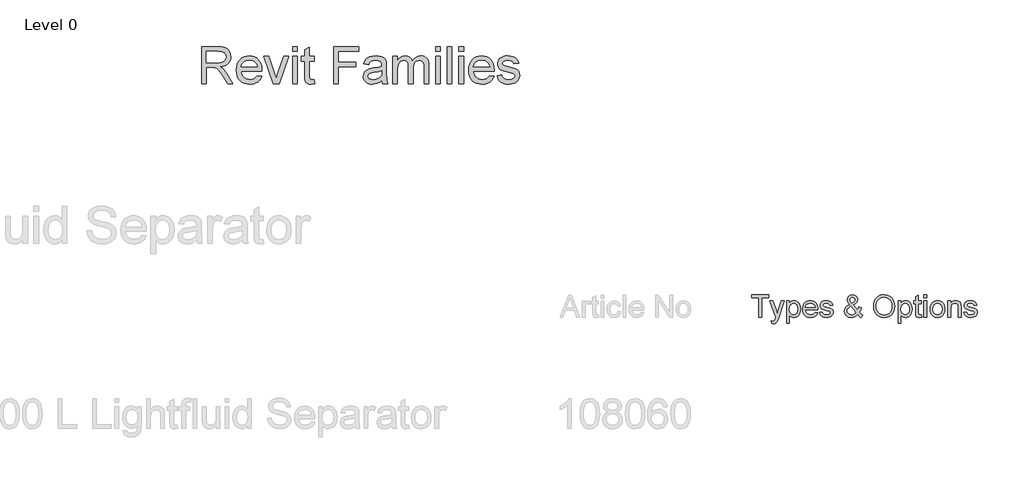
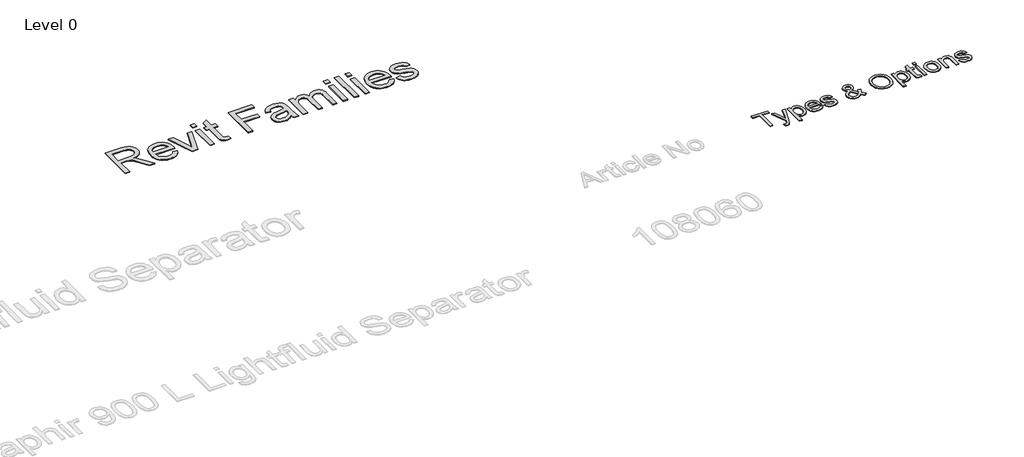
# One storey, part 9 of 9: 2 proxies.
"""IFC4 building model written with IfcOpenShell, lengths in millimetres."""

from ifc_helpers import new_model, si_unit, origin, origin_with_axes, place, context, project, spatial, polyline, outline, extrude, element, save

model = new_model("IFC4")

# Units and contexts
model_context = context("Model", 3, world=origin())
ifc_project = project(units=[si_unit("LENGTHUNIT", "METRE", prefix="MILLI")], contexts=[model_context])

# Site, building, storey
site = spatial("IfcSite", under=ifc_project)
building = spatial("IfcBuilding", under=site)
storey = spatial("IfcBuildingStorey", under=building, Name="Level 0", Elevation=0.0)

# Proxies
placement = place(None, origin())
element("IfcBuildingElementProxy", 1, Name="300mm Arial", ObjectType="300mm Arial", at=placement, inside=storey, context=model_context, shape_type="SweptSolid", body=[
    extrude(outline(polyline([(-1087.829451, 11653.8274553), (-1087.829451, 11917.5252695), (-1186.7161313, 11917.5252695), (-1186.7161313, 11955.1963858), (-951.2716544, 11955.1963858), (-951.2716544, 11917.5252695), (-1050.1583347, 11917.5252695), (-1050.1583347, 11653.8274553), (-1087.829451, 11653.8274553)])), origin_with_axes(), (0.0, 0.0, 1.0), 10.0),
    extrude(outline(polyline([(-913.6005381, 11569.0674436), (-918.3094276, 11605.3406084), (-899.1795639, 11602.0296704), (-881.3004989, 11606.186737), (-870.3376155, 11617.7750198), (-860.0369196, 11645.5133222), (-857.0938636, 11654.6367957), (-937.1449858, 11875.1452636), (-897.4137303, 11875.1452636), (-854.9601481, 11752.2726772), (-840.1712919, 11703.1236427), (-825.3824356, 11746.5337181), (-781.751631, 11875.1452636), (-742.3146811, 11875.1452636), (-819.3491709, 11648.5299546), (-839.3619515, 11599.38092), (-849.607465, 11583.690753), (-861.214142, 11572.81984), (-874.6970171, 11566.4738756), (-890.5711252, 11564.3585541), (-913.6005381, 11569.0674436)])), origin_with_axes(), (0.0, 0.0, 1.0), 10.0),
    extrude(outline(polyline([(-711.1182879, 11569.0674436), (-711.1182879, 11875.1452636), (-673.4471716, 11875.1452636), (-673.4471716, 11838.2099113), (-661.159913, 11856.4292671), (-647.4011264, 11869.4430927), (-631.3614714, 11877.2513881), (-612.2316076, 11879.8541532), (-586.7557795, 11876.2121214), (-564.4805247, 11865.2860262), (-546.3439423, 11847.738055), (-533.2841315, 11824.2303955), (-525.3930627, 11796.473699), (-522.7627064, 11766.1786167), (-525.7333535, 11733.9613509), (-534.6452949, 11705.1469937), (-549.2134219, 11681.1978758), (-569.152626, 11663.5763282), (-592.3751769, 11652.7330064), (-616.7933444, 11649.1185658), (-634.1113893, 11651.5373899), (-649.5716301, 11658.7938623), (-662.8061849, 11669.7475487), (-673.4471716, 11683.2580149), (-673.4471716, 11569.0674436), (-711.1182879, 11569.0674436)]), holes=[polyline([(-673.4471716, 11762.7205259), (-669.3728785, 11728.9489587), (-657.1499992, 11705.3309347), (-639.1145844, 11691.4249952), (-617.6026848, 11686.7896821), (-595.7412972, 11691.5905421), (-577.2460299, 11705.9931223), (-564.6368745, 11730.475669), (-560.4338227, 11765.5164291), (-564.535707, 11799.1040552), (-576.8413597, 11823.0531731), (-594.8491834, 11837.4005709), (-616.0575804, 11842.1830369), (-637.3487509, 11837.0970683), (-656.0463533, 11821.8391625), (-669.096967, 11796.8875662), (-673.4471716, 11762.7205259)])]), origin_with_axes(), (0.0, 0.0, 1.0), 10.0),
    extrude(outline(polyline([(-325.4308042, 11719.7519089), (-288.4954519, 11715.0430193), (-301.8035831, 11687.2127464), (-323.0395712, 11666.4090196), (-351.7251698, 11653.4411792), (-387.3821322, 11649.1185658), (-410.7564345, 11650.9832677), (-431.5831539, 11656.5773732), (-449.8622905, 11665.9008826), (-465.5938444, 11678.9537956), (-478.2443865, 11695.3728289), (-487.280488, 11714.794699), (-492.7021489, 11737.2194059), (-494.5093692, 11762.6469495), (-492.6837548, 11788.9367166), (-487.2069116, 11812.1086838), (-478.0788396, 11832.162851), (-465.2995388, 11849.0992184), (-449.6093717, 11862.5545023), (-431.7487008, 11872.1654195), (-411.7175262, 11877.9319697), (-389.5158478, 11879.8541532), (-368.02924, 11877.9365683), (-348.5981728, 11872.1838136), (-331.2226464, 11862.5958891), (-315.9026605, 11849.1727948), (-303.396972, 11832.2732156), (-294.4643373, 11812.2558366), (-289.1047564, 11789.1206576), (-287.3182295, 11762.8676787), (-287.5389587, 11752.7141356), (-456.8382529, 11752.7141356), (-450.3175445, 11724.5159807), (-435.1700034, 11703.7858303), (-413.3086158, 11691.0387191), (-386.6463682, 11686.7896821), (-366.5967995, 11688.7578508), (-349.7110159, 11694.6623568), (-335.9890175, 11704.8710822), (-325.4308042, 11719.7519089)]), holes=[polyline([(-456.8382529, 11790.3852519), (-324.9893458, 11790.3852519), (-330.0845114, 11810.2876679), (-340.0725076, 11824.5247011), (-362.0350627, 11837.7684529), (-389.6630006, 11842.1830369), (-415.0560553, 11838.6605668), (-436.0529201, 11828.0931565), (-450.6486383, 11811.6212401), (-456.8382529, 11790.3852519)])]), origin_with_axes(), (0.0, 0.0, 1.0), 10.0),
    extrude(outline(polyline([(-263.7737818, 11719.7519089), (-226.1026655, 11724.4607984), (-220.1613713, 11708.347567), (-208.6650589, 11696.5017668), (-191.5401521, 11689.2177033), (-168.7130743, 11686.7896821), (-146.1619079, 11689.0153682), (-130.306194, 11695.6924264), (-120.9252031, 11705.3677229), (-117.7982061, 11716.5881237), (-120.9435972, 11726.1898438), (-130.3797704, 11733.5106955), (-169.1545326, 11744.2528497), (-225.8819363, 11762.6837377), (-240.2385312, 11771.9451669), (-250.6403946, 11784.2048344), (-256.9587678, 11798.6809909), (-259.0648923, 11814.5918872), (-257.3726351, 11829.1876054), (-252.2958636, 11842.6612835), (-244.2944302, 11854.4794926), (-233.8281874, 11864.1088038), (-209.8790695, 11875.2556282), (-177.4686657, 11879.8541532), (-152.9493308, 11878.0055461), (-131.6305691, 11872.4597251), (-114.4872682, 11863.7593159), (-102.4943151, 11852.4469445), (-94.548064, 11837.6856795), (-89.5448689, 11818.6385892), (-127.2159852, 11813.9296996), (-131.97086, 11825.7846969), (-141.379442, 11834.7150324), (-155.5337018, 11840.3160357), (-174.5256098, 11842.1830369), (-196.1570711, 11840.3988092), (-210.5780453, 11835.0461262), (-218.6898433, 11827.3206043), (-221.393776, 11818.41786), (-216.9056156, 11807.4549765), (-202.8525234, 11799.1408434), (-170.4053314, 11791.1210159), (-115.1126676, 11773.3891038), (-100.5077523, 11764.9094238), (-89.4345043, 11753.3027468), (-82.4539434, 11738.5322847), (-80.1270898, 11720.5612493), (-82.8586136, 11701.9832085), (-91.0531851, 11684.5088137), (-104.3981044, 11669.5084254), (-122.5806721, 11658.3524039), (-144.5432272, 11651.4270253), (-169.228109, 11649.1185658), (-207.211925, 11653.5699379), (-234.9318334, 11666.9240544), (-253.4362977, 11689.0337623), (-263.7737818, 11719.7519089)])), origin_with_axes(), (0.0, 0.0, 1.0), 10.0),
    extrude(outline(polyline([(252.8061158, 11691.0571132), (233.657858, 11672.7089987), (212.8541311, 11659.6032027), (190.3581471, 11651.739725), (166.1331178, 11649.1185658), (144.1521685, 11651.0591433), (124.5624523, 11656.8808759), (107.363969, 11666.5837635), (92.5567187, 11680.1678062), (76.0572112, 11706.9680095), (70.5573754, 11736.748057), (74.9811564, 11763.1435902), (88.2524994, 11786.8535848), (110.316222, 11807.8596467), (141.1171421, 11826.1433819), (114.8135794, 11864.2559566), (108.2284917, 11892.5092938), (113.4156278, 11917.9483338), (128.9770362, 11939.8189184), (152.3927252, 11954.8836861), (181.1427032, 11959.9052753), (208.4947295, 11955.1044153), (230.3653141, 11940.7018352), (244.7127119, 11919.5670146), (249.4951779, 11894.569433), (245.9543137, 11873.5817652), (235.331721, 11854.1759899), (217.6274, 11836.3521072), (192.8413506, 11820.1101172), (247.3614623, 11752.1991008), (256.6504827, 11771.6048761), (263.6218465, 11793.9169191), (301.2929628, 11785.7499388), (289.7046799, 11750.8563316), (274.6583063, 11723.7250344), (296.0690385, 11698.7458469), (320.1285209, 11678.107667), (291.8751837, 11649.1185658), (272.6533495, 11666.7033252), (252.8061158, 11691.0571132)]), holes=[polyline([(227.569411, 11718.2068045), (160.3205822, 11802.1574758), (134.6332219, 11785.7683329), (118.9338578, 11770.5932006), (110.9048332, 11756.09865), (108.2284917, 11741.7512522), (111.8889176, 11723.9825518), (122.8701951, 11705.5516639), (140.5653191, 11691.4801775), (164.3672842, 11686.7896821), (181.4094176, 11688.97858), (198.9849799, 11695.5452736), (215.0522261, 11705.5884521), (227.569411, 11718.2068045)]), polyline([(173.7850633, 11843.875294), (193.4851441, 11856.3740848), (204.7607272, 11867.2358007), (210.058228, 11877.803211), (211.8240616, 11889.419085), (209.4972079, 11902.5800634), (202.5166471, 11913.0738973), (192.0412073, 11919.9440936), (179.2297168, 11922.234159), (166.1423148, 11919.9624877), (155.4277517, 11913.1474737), (148.2816439, 11903.05831), (145.899608, 11890.9641894), (149.1369696, 11877.1686146), (158.9226307, 11861.8279354), (173.7850633, 11843.875294)])]), origin_with_axes(), (0.0, 0.0, 1.0), 10.0),
    extrude(outline(polyline([(466.1040966, 11800.538795), (468.6148912, 11835.8876562), (476.1472751, 11867.1806184), (488.7012482, 11894.4176817), (506.2768105, 11917.5988459), (527.8208998, 11936.1079088), (552.280454, 11949.328668), (579.655473, 11957.2611235), (609.9459567, 11959.9052753), (649.4748771, 11954.9388684), (684.9203074, 11940.0396476), (714.350867, 11916.2560766), (735.8351755, 11884.6366191), (748.9685627, 11846.7079854), (753.3463585, 11803.9968858), (748.7386365, 11760.715569), (734.9154705, 11722.2535064), (712.6402157, 11690.5788667), (682.6762272, 11667.6598184), (647.5342996, 11653.7538789), (609.7252275, 11649.1185658), (569.5893019, 11654.2413226), (533.9415365, 11669.6095929), (504.5845533, 11693.8346223), (483.320974, 11725.5276562), (470.408316, 11761.993959), (466.1040966, 11800.538795)]), holes=[polyline([(503.7752129, 11800.170913), (505.6583089, 11775.1963241), (511.3075968, 11753.0268353), (520.7230766, 11733.6624468), (533.9047483, 11717.1031585), (549.9283085, 11703.8410126), (567.8694535, 11694.3680512), (587.7281835, 11688.6842744), (609.5044983, 11686.7896821), (631.6532937, 11688.7026685), (651.7465484, 11694.4416276), (669.7842625, 11704.0065595), (685.7664359, 11717.3974641), (698.8515387, 11734.3062403), (708.1980406, 11754.4247869), (713.8059418, 11777.7531039), (715.6752422, 11804.2911914), (712.4746688, 11837.6396942), (702.8729487, 11866.4632485), (687.1184023, 11890.0352874), (665.4593498, 11907.6292438), (639.3305311, 11918.5829302), (610.1666859, 11922.234159), (589.1468284, 11920.4752232), (569.6444842, 11915.1984159), (551.6596531, 11906.4037369), (535.1923353, 11894.0911864), (521.4473443, 11877.6675546), (511.6294935, 11856.5396317), (505.7387831, 11830.7074179), (503.7752129, 11800.170913)])]), origin_with_axes(), (0.0, 0.0, 1.0), 10.0),
    extrude(outline(polyline([(800.4352538, 11569.0674436), (800.4352538, 11875.1452636), (838.1063701, 11875.1452636), (838.1063701, 11838.2099113), (850.3936288, 11856.4292671), (864.1524154, 11869.4430927), (880.1920704, 11877.2513881), (899.3219341, 11879.8541532), (924.7977623, 11876.2121214), (947.0730171, 11865.2860262), (965.2095995, 11847.738055), (978.2694103, 11824.2303955), (986.1604791, 11796.473699), (988.7908354, 11766.1786167), (985.8201883, 11733.9613509), (976.9082469, 11705.1469937), (962.3401199, 11681.1978758), (942.4009158, 11663.5763282), (919.1783648, 11652.7330064), (894.7601974, 11649.1185658), (877.4421525, 11651.5373899), (861.9819116, 11658.7938623), (848.7473569, 11669.7475487), (838.1063701, 11683.2580149), (838.1063701, 11569.0674436), (800.4352538, 11569.0674436)]), holes=[polyline([(838.1063701, 11762.7205259), (842.1806632, 11728.9489587), (854.4035425, 11705.3309347), (872.4389573, 11691.4249952), (893.950857, 11686.7896821), (915.8122446, 11691.5905421), (934.3075119, 11705.9931223), (946.9166673, 11730.475669), (951.1197191, 11765.5164291), (947.0178348, 11799.1040552), (934.7121821, 11823.0531731), (916.7043584, 11837.4005709), (895.4959614, 11842.1830369), (874.2047909, 11837.0970683), (855.5071885, 11821.8391625), (842.4565747, 11796.8875662), (838.1063701, 11762.7205259)])]), origin_with_axes(), (0.0, 0.0, 1.0), 10.0),
    extrude(outline(polyline([(1111.2219634, 11685.2445777), (1115.9308529, 11652.7238093), (1087.7510921, 11649.1185658), (1069.669692, 11650.6820643), (1056.1868169, 11655.3725597), (1046.6586732, 11662.6014409), (1040.4414675, 11671.7800967), (1037.0201649, 11687.5438402), (1035.8797308, 11714.5279845), (1035.8797308, 11837.4741473), (1007.6263935, 11837.4741473), (1007.6263935, 11875.1452636), (1035.8797308, 11875.1452636), (1035.8797308, 11928.9296113), (1073.5508471, 11951.0761074), (1073.5508471, 11875.1452636), (1111.2219634, 11875.1452636), (1111.2219634, 11837.4741473), (1073.5508471, 11837.4741473), (1073.5508471, 11715.6316305), (1075.5374098, 11696.2074612), (1081.9753447, 11689.3280679), (1094.8144264, 11686.7896821), (1111.2219634, 11685.2445777)])), origin_with_axes(), (0.0, 0.0, 1.0), 10.0),
    extrude(outline(polyline([(1148.8930797, 11917.5252695), (1148.8930797, 11955.1963858), (1186.564196, 11955.1963858), (1186.564196, 11917.5252695), (1148.8930797, 11917.5252695)])), origin_with_axes(), (0.0, 0.0, 1.0), 10.0),
    extrude(outline(polyline([(1148.8930797, 11653.8274553), (1148.8930797, 11875.1452636), (1186.564196, 11875.1452636), (1186.564196, 11653.8274553), (1148.8930797, 11653.8274553)])), origin_with_axes(), (0.0, 0.0, 1.0), 10.0),
    extrude(outline(polyline([(1233.6530914, 11764.4863595), (1235.6902379, 11793.1489654), (1241.8016776, 11817.8476429), (1251.9874103, 11838.5823918), (1266.2474361, 11855.3532123), (1280.604031, 11866.0723739), (1296.4505479, 11873.728918), (1313.786987, 11878.3228444), (1332.6133481, 11879.8541532), (1353.3963815, 11877.9894513), (1372.1882537, 11872.3953457), (1388.9889646, 11863.0718364), (1403.7985141, 11850.0189234), (1415.8857369, 11833.678065), (1424.5194675, 11814.4907197), (1429.6997059, 11792.4568874), (1431.426452, 11767.5765682), (1428.3730314, 11729.5191758), (1419.2127697, 11700.5484687), (1404.2123814, 11678.8526281), (1383.6385808, 11662.619835), (1359.2020193, 11652.4938831), (1332.6133481, 11649.1185658), (1311.526812, 11650.9763699), (1292.5601958, 11656.5497821), (1275.7134997, 11665.8388025), (1260.9867236, 11678.843431), (1249.0282595, 11695.3429385), (1240.4864994, 11715.1165957), (1235.3614434, 11738.1644027), (1233.6530914, 11764.4863595)]), holes=[polyline([(1271.3242077, 11764.5599359), (1275.6836093, 11730.466472), (1288.7618142, 11706.1770632), (1308.443501, 11691.6365274), (1332.6133481, 11686.7896821), (1356.6728305, 11691.6641185), (1376.3177291, 11706.2874278), (1389.395934, 11730.8987333), (1393.7553357, 11765.7371583), (1389.3683429, 11798.8373408), (1376.2073645, 11822.7956557), (1356.5348748, 11837.3361916), (1332.6133481, 11842.1830369), (1308.443501, 11837.3545857), (1288.7618142, 11822.8692321), (1275.6836093, 11798.6350057), (1271.3242077, 11764.5599359)])]), origin_with_axes(), (0.0, 0.0, 1.0), 10.0),
    extrude(outline(polyline([(1473.8064578, 11653.8274553), (1473.8064578, 11875.1452636), (1511.4775741, 11875.1452636), (1511.4775741, 11844.243176), (1524.5649761, 11859.8229785), (1540.2827343, 11870.9514089), (1558.6308488, 11877.6284671), (1579.6093196, 11879.8541532), (1598.1781633, 11878.0607284), (1615.1835086, 11872.6804543), (1629.3653595, 11864.3847153), (1639.4637202, 11853.8448961), (1650.7576975, 11826.1433819), (1652.7442603, 11789.7230644), (1652.7442603, 11653.8274553), (1615.073144, 11653.8274553), (1615.073144, 11784.6462928), (1610.7321364, 11817.9764016), (1604.7264628, 11827.9000184), (1595.3914572, 11835.5979492), (1583.4260953, 11840.5367649), (1569.529353, 11842.1830369), (1547.4656303, 11838.4858228), (1528.6576633, 11827.3941807), (1521.1413743, 11818.3396851), (1515.7725964, 11805.9650544), (1511.4775741, 11771.2553882), (1511.4775741, 11653.8274553), (1473.8064578, 11653.8274553)])), origin_with_axes(), (0.0, 0.0, 1.0), 10.0),
    extrude(outline(polyline([(1690.4153766, 11719.7519089), (1728.0864929, 11724.4607984), (1734.0277871, 11708.347567), (1745.5240994, 11696.5017668), (1762.6490063, 11689.2177033), (1785.4760841, 11686.7896821), (1808.0272504, 11689.0153682), (1823.8829644, 11695.6924264), (1833.2639553, 11705.3677229), (1836.3909523, 11716.5881237), (1833.2455612, 11726.1898438), (1823.809388, 11733.5106955), (1785.0346257, 11744.2528497), (1728.3072221, 11762.6837377), (1713.9506272, 11771.9451669), (1703.5487638, 11784.2048344), (1697.2303905, 11798.6809909), (1695.1242661, 11814.5918872), (1696.8165233, 11829.1876054), (1701.8932948, 11842.6612835), (1709.8947282, 11854.4794926), (1720.360971, 11864.1088038), (1744.3100889, 11875.2556282), (1776.7204926, 11879.8541532), (1801.2398276, 11878.0055461), (1822.5585892, 11872.4597251), (1839.7018902, 11863.7593159), (1851.6948433, 11852.4469445), (1859.6410944, 11837.6856795), (1864.6442895, 11818.6385892), (1826.9731732, 11813.9296996), (1822.2182984, 11825.7846969), (1812.8097164, 11834.7150324), (1798.6554566, 11840.3160357), (1779.6635486, 11842.1830369), (1758.0320873, 11840.3988092), (1743.6111131, 11835.0461262), (1735.4993151, 11827.3206043), (1732.7953824, 11818.41786), (1737.2835428, 11807.4549765), (1751.336635, 11799.1408434), (1783.7838269, 11791.1210159), (1839.0764908, 11773.3891038), (1853.681406, 11764.9094238), (1864.7546541, 11753.3027468), (1871.7352149, 11738.5322847), (1874.0620686, 11720.5612493), (1871.3305447, 11701.9832085), (1863.1359733, 11684.5088137), (1849.7910539, 11669.5084254), (1831.6084863, 11658.3524039), (1809.6459312, 11651.4270253), (1784.9610493, 11649.1185658), (1746.9772333, 11653.5699379), (1719.257325, 11666.9240544), (1700.7528606, 11689.0337623), (1690.4153766, 11719.7519089)])), origin_with_axes(), (0.0, 0.0, 1.0), 10.0),
])
element("IfcBuildingElementProxy", 2, Name="600mm Arial", ObjectType="600mm Arial", at=placement, inside=storey, context=model_context, shape_type="SweptSolid", body=[
    extrude(outline(polyline([(-8637.1018415, 14819.3449091), (-8637.1018415, 15321.6264599), (-8420.664601, 15321.6264599), (-8362.4932606, 15318.2388799), (-8320.1715027, 15308.0761397), (-8289.2387583, 15289.314158), (-8265.2344581, 15260.128853), (-8249.8293995, 15223.9384618), (-8244.69438, 15184.161221), (-8246.8211978, 15158.3634961), (-8253.2016511, 15134.6810927), (-8263.8357401, 15113.1140107), (-8278.7234646, 15093.6622502), (-8298.0564298, 15076.9466121), (-8322.0262411, 15063.5878971), (-8350.6328983, 15053.5861054), (-8383.8764015, 15046.9412368), (-8363.1830393, 15033.4215735), (-8348.191848, 15020.0858512), (-8297.3015053, 14955.4612474), (-8213.5470378, 14819.3449091), (-8286.5103001, 14819.3449091), (-8351.8706679, 14923.4555138), (-8399.0821907, 14992.3720742), (-8416.6332275, 15012.4676282), (-8432.2528839, 15024.9296308), (-8462.1126392, 15036.8857956), (-8498.5329567, 15039.0930876), (-8574.3166477, 15039.0930876), (-8574.3166477, 14819.3449091), (-8637.1018415, 14819.3449091)]), holes=[polyline([(-8574.3166477, 15101.8782814), (-8433.7857255, 15101.8782814), (-8393.426005, 15104.1009018), (-8362.1100501, 15110.768763), (-8338.5349456, 15122.326389), (-8321.397776, 15139.2183039), (-8310.9591244, 15159.6510831), (-8307.4795739, 15181.8313017), (-8309.1388749, 15197.887818), (-8314.1167782, 15212.4574778), (-8322.4132836, 15225.5402813), (-8334.0283912, 15237.1362283), (-8349.2303482, 15246.6321823), (-8368.287402, 15253.4150066), (-8417.9667997, 15258.841266), (-8574.3166477, 15258.841266), (-8574.3166477, 15101.8782814)])]), origin_with_axes(), (0.0, 0.0, 1.0), 10.0),
    extrude(outline(polyline([(-7884.4152794, 14929.2189984), (-7822.8563589, 14921.3708491), (-7832.2948313, 14896.7150913), (-7845.0365775, 14874.9870609), (-7861.0815974, 14856.1867581), (-7880.4298911, 14840.3141829), (-7902.8821891, 14827.7065603), (-7928.2392221, 14818.7011157), (-7956.5009899, 14813.2978488), (-7987.6674927, 14811.4967599), (-8026.6246632, 14814.6045964), (-8061.3358622, 14823.9281057), (-8091.80109, 14839.4672879), (-8118.0203463, 14861.2221429), (-8139.1045832, 14888.5871984), (-8154.1647524, 14920.9569819), (-8163.2008539, 14958.3314933), (-8166.2128877, 15000.7107328), (-8163.170197, 15044.5270112), (-8154.042125, 15083.1469565), (-8138.8286717, 15116.5705686), (-8117.529837, 15144.7978475), (-8091.3795585, 15167.2233208), (-8061.6117737, 15183.241516), (-8028.2264827, 15192.8524332), (-7991.2236853, 15196.0560722), (-7955.4126724, 15192.8600974), (-7923.0275605, 15183.2721729), (-7894.0683497, 15167.2922987), (-7868.5350399, 15144.9204749), (-7847.6922257, 15116.7545096), (-7832.8045012, 15083.3922112), (-7823.8718665, 15044.8335796), (-7820.8943216, 15001.0786148), (-7821.2622036, 14984.156043), (-8103.4276939, 14984.156043), (-8099.7910271, 14959.1017463), (-8092.5598466, 14937.1591181), (-8081.7341525, 14918.3281585), (-8067.3139447, 14902.6088674), (-8050.0963009, 14890.2158427), (-8030.8782987, 14881.3636822), (-8009.6599382, 14876.0523859), (-7986.4412194, 14874.2819538), (-7953.0252715, 14877.5622349), (-7924.8822989, 14887.4030783), (-7902.0123015, 14904.4176205), (-7884.4152794, 14929.2189984)]), holes=[polyline([(-8103.4276939, 15046.9412368), (-7883.6795154, 15046.9412368), (-7892.1714581, 15080.1119301), (-7908.8181184, 15103.8403187), (-7925.9399596, 15116.7161886), (-7945.4223769, 15125.9132385), (-7967.2653704, 15131.4314684), (-7991.46894, 15133.2708784), (-8033.7906979, 15127.4000949), (-8052.2039581, 15120.0616155), (-8068.7854727, 15109.7877443), (-8082.6998427, 15097.0536624), (-8093.1116696, 15082.3345504), (-8100.0209533, 15065.6304086), (-8103.4276939, 15046.9412368)])]), origin_with_axes(), (0.0, 0.0, 1.0), 10.0),
    extrude(outline(polyline([(-7667.6101569, 14819.3449091), (-7797.3498739, 15188.207923), (-7730.8858601, 15188.207923), (-7652.2817404, 14967.2334712), (-7628.6146654, 14892.9213082), (-7605.4380997, 14963.0641419), (-7526.3434708, 15188.207923), (-7459.879457, 15188.207923), (-7588.0250186, 14819.3449091), (-7667.6101569, 14819.3449091)])), origin_with_axes(), (0.0, 0.0, 1.0), 10.0),
    extrude(outline(polyline([(-7404.9424124, 14819.3449091), (-7404.9424124, 15188.207923), (-7342.1572185, 15188.207923), (-7342.1572185, 14819.3449091), (-7404.9424124, 14819.3449091)])), origin_with_axes(), (0.0, 0.0, 1.0), 10.0),
    extrude(outline(polyline([(-7404.9424124, 15258.841266), (-7404.9424124, 15321.6264599), (-7342.1572185, 15321.6264599), (-7342.1572185, 15258.841266), (-7404.9424124, 15258.841266)])), origin_with_axes(), (0.0, 0.0, 1.0), 10.0),
    extrude(outline(polyline([(-7114.5608908, 14871.7067798), (-7106.7127416, 14817.5054992), (-7153.6790096, 14811.4967599), (-7183.8146764, 14814.1025907), (-7206.286135, 14821.9200831), (-7222.1663744, 14833.9682185), (-7232.5283839, 14849.2659781), (-7238.2305549, 14875.5388839), (-7240.1312785, 14920.5124578), (-7240.1312785, 15125.4227291), (-7287.2201739, 15125.4227291), (-7287.2201739, 15188.207923), (-7240.1312785, 15188.207923), (-7240.1312785, 15277.8485025), (-7177.3460847, 15314.7593293), (-7177.3460847, 15188.207923), (-7114.5608908, 15188.207923), (-7114.5608908, 15125.4227291), (-7177.3460847, 15125.4227291), (-7177.3460847, 14922.3518678), (-7174.0351467, 14889.9782522), (-7163.3052552, 14878.5125967), (-7141.9067858, 14874.2819538), (-7114.5608908, 14871.7067798)])), origin_with_axes(), (0.0, 0.0, 1.0), 10.0),
    extrude(outline(polyline([(-6847.723817, 14819.3449091), (-6847.723817, 15321.6264599), (-6510.2534001, 15321.6264599), (-6510.2534001, 15258.841266), (-6784.9386231, 15258.841266), (-6784.9386231, 15109.7264307), (-6549.4941462, 15109.7264307), (-6549.4941462, 15046.9412368), (-6784.9386231, 15046.9412368), (-6784.9386231, 14819.3449091), (-6847.723817, 14819.3449091)])), origin_with_axes(), (0.0, 0.0, 1.0), 10.0),
    extrude(outline(polyline([(-6196.3274309, 14866.4338045), (-6226.3251419, 14840.7127217), (-6257.2119011, 14823.8821204), (-6289.6928156, 14814.5931), (-6324.4729925, 14811.4967599), (-6352.428192, 14813.3591625), (-6376.9421621, 14818.9463703), (-6398.0149026, 14828.2583833), (-6415.6464137, 14841.2952015), (-6429.5684479, 14857.2290904), (-6439.5127581, 14875.2323156), (-6445.4793442, 14895.3048769), (-6447.4682062, 14917.4467745), (-6444.4638366, 14943.4744257), (-6435.4507277, 14967.1108439), (-6421.547854, 14987.3443536), (-6403.8741898, 15003.1632794), (-6383.1041855, 15015.1194442), (-6359.9122914, 15023.7646711), (-6305.5883834, 15033.2069757), (-6241.3929753, 15043.1397895), (-6196.6953129, 15054.7893861), (-6196.3274309, 15068.7689019), (-6200.6500443, 15096.7892472), (-6213.6178846, 15115.1220333), (-6226.6930239, 15123.062153), (-6242.6192486, 15128.7336671), (-6283.0249544, 15133.2708784), (-6320.4262906, 15130.2511803), (-6346.5459122, 15121.1920862), (-6364.3575322, 15104.438127), (-6376.8348632, 15078.3338337), (-6439.620057, 15086.181983), (-6428.7215529, 15120.5176359), (-6412.458103, 15147.4956488), (-6389.3121942, 15168.1276974), (-6357.7663131, 15183.425457), (-6319.1846888, 15192.8984184), (-6274.9315505, 15196.0560722), (-6232.4871653, 15193.2663004), (-6198.8412912, 15184.896985), (-6173.4727619, 15172.3123551), (-6155.8604114, 15156.8766397), (-6144.1801581, 15137.7927612), (-6136.6079203, 15114.2636419), (-6133.542237, 15059.3265973), (-6133.542237, 14981.212987), (-6130.3539264, 14872.1359755), (-6125.6327741, 14845.1732909), (-6117.8459386, 14819.3449091), (-6180.6311324, 14819.3449091), (-6190.6865736, 14841.1725742), (-6196.3274309, 14866.4338045)]), holes=[polyline([(-6196.3274309, 14992.0041922), (-6238.511233, 14981.5502122), (-6297.6176069, 14972.7517011), (-6351.6349465, 14962.5736326), (-6365.6911044, 14955.6145315), (-6376.0990992, 14946.0189428), (-6382.5370341, 14934.5226305), (-6384.6830124, 14921.8613585), (-6380.0078454, 14903.1913472), (-6365.9823443, 14887.8935876), (-6342.9130775, 14877.6848622), (-6311.1066134, 14874.2819538), (-6277.3840971, 14878.0374158), (-6247.5856555, 14889.3038019), (-6223.4280712, 14905.9044769), (-6206.6281267, 14925.6628057), (-6199.1785163, 14946.0189428), (-6196.6953129, 14974.2232291), (-6196.3274309, 14992.0041922)])]), origin_with_axes(), (0.0, 0.0, 1.0), 10.0),
    extrude(outline(polyline([(-6047.2125955, 14819.3449091), (-6047.2125955, 15188.207923), (-5984.4274016, 15188.207923), (-5984.4274016, 15127.5073938), (-5965.5427926, 15155.3897833), (-5941.2625809, 15177.2327768), (-5912.4145011, 15191.3502483), (-5879.8262877, 15196.0560722), (-5844.908155, 15191.2582778), (-5816.9184665, 15176.8648948), (-5796.0105064, 15153.8262848), (-5782.337559, 15123.0928098), (-5759.4522332, 15155.0142371), (-5733.3479399, 15177.8152566), (-5704.0246792, 15191.4958683), (-5671.4824511, 15196.0560722), (-5646.3476802, 15194.1591807), (-5624.2862568, 15188.4685061), (-5605.2981809, 15178.9840484), (-5589.3834525, 15165.7058076), (-5576.8026547, 15148.4804996), (-5567.8163705, 15127.1548402), (-5562.4246, 15101.7288294), (-5560.6273432, 15072.2024672), (-5560.6273432, 14819.3449091), (-5623.412537, 14819.3449091), (-5623.412537, 15045.2244542), (-5624.8687366, 15076.540409), (-5629.2373353, 15097.6476385), (-5637.4227097, 15112.1023352), (-5650.3292364, 15123.4606918), (-5666.9299114, 15130.8183317), (-5686.1977309, 15133.2708784), (-5703.9901903, 15131.6997157), (-5720.211487, 15126.9862276), (-5734.8616211, 15119.1304142), (-5747.9405924, 15108.1322754), (-5758.6973087, 15093.6699144), (-5766.3806774, 15075.4214346), (-5770.9906987, 15053.3868359), (-5772.5273724, 15027.5661184), (-5772.5273724, 14819.3449091), (-5835.3125663, 14819.3449091), (-5835.3125663, 15052.2142121), (-5838.945401, 15087.7148246), (-5849.8439051, 15113.0373686), (-5858.270702, 15121.8895291), (-5869.0197541, 15128.2125009), (-5897.4846235, 15133.2708784), (-5921.6728646, 15129.8986267), (-5943.9603822, 15119.7818719), (-5962.3544819, 15103.1658684), (-5974.8624698, 15080.2958711), (-5982.0361687, 15048.566049), (-5984.4274016, 15005.3705714), (-5984.4274016, 14819.3449091), (-6047.2125955, 14819.3449091)])), origin_with_axes(), (0.0, 0.0, 1.0), 10.0),
    extrude(outline(polyline([(-5466.4495524, 15258.841266), (-5466.4495524, 15321.6264599), (-5403.6643586, 15321.6264599), (-5403.6643586, 15258.841266), (-5466.4495524, 15258.841266)])), origin_with_axes(), (0.0, 0.0, 1.0), 10.0),
    extrude(outline(polyline([(-5466.4495524, 14819.3449091), (-5466.4495524, 15188.207923), (-5403.6643586, 15188.207923), (-5403.6643586, 14819.3449091), (-5466.4495524, 14819.3449091)])), origin_with_axes(), (0.0, 0.0, 1.0), 10.0),
    extrude(outline(polyline([(-5309.4865678, 14819.3449091), (-5309.4865678, 15321.6264599), (-5246.701374, 15321.6264599), (-5246.701374, 14819.3449091), (-5309.4865678, 14819.3449091)])), origin_with_axes(), (0.0, 0.0, 1.0), 10.0),
    extrude(outline(polyline([(-5152.5235832, 15258.841266), (-5152.5235832, 15321.6264599), (-5089.7383894, 15321.6264599), (-5089.7383894, 15258.841266), (-5152.5235832, 15258.841266)])), origin_with_axes(), (0.0, 0.0, 1.0), 10.0),
    extrude(outline(polyline([(-5152.5235832, 14819.3449091), (-5152.5235832, 15188.207923), (-5089.7383894, 15188.207923), (-5089.7383894, 14819.3449091), (-5152.5235832, 14819.3449091)])), origin_with_axes(), (0.0, 0.0, 1.0), 10.0),
    extrude(outline(polyline([(-4737.307438, 14929.2189984), (-4675.7485175, 14921.3708491), (-4685.1869899, 14896.7150913), (-4697.9287361, 14874.9870609), (-4713.973756, 14856.1867581), (-4733.3220497, 14840.3141829), (-4755.7743477, 14827.7065603), (-4781.1313807, 14818.7011157), (-4809.3931485, 14813.2978488), (-4840.5596513, 14811.4967599), (-4879.5168218, 14814.6045964), (-4914.2280208, 14823.9281057), (-4944.6932486, 14839.4672879), (-4970.9125049, 14861.2221429), (-4991.9967418, 14888.5871984), (-5007.056911, 14920.9569819), (-5016.0930125, 14958.3314933), (-5019.1050463, 15000.7107328), (-5016.0623556, 15044.5270112), (-5006.9342836, 15083.1469565), (-4991.7208303, 15116.5705686), (-4970.4219956, 15144.7978475), (-4944.2717171, 15167.2233208), (-4914.5039323, 15183.241516), (-4881.1186413, 15192.8524332), (-4844.1158439, 15196.0560722), (-4808.304831, 15192.8600974), (-4775.9197191, 15183.2721729), (-4746.9605083, 15167.2922987), (-4721.4271985, 15144.9204749), (-4700.5843842, 15116.7545096), (-4685.6966598, 15083.3922112), (-4676.7640251, 15044.8335796), (-4673.7864802, 15001.0786148), (-4674.1543622, 14984.156043), (-4956.3198525, 14984.156043), (-4952.6831857, 14959.1017463), (-4945.4520052, 14937.1591181), (-4934.6263111, 14918.3281585), (-4920.2061033, 14902.6088674), (-4902.9884595, 14890.2158427), (-4883.7704573, 14881.3636822), (-4862.5520968, 14876.0523859), (-4839.333378, 14874.2819538), (-4805.9174301, 14877.5622349), (-4777.7744575, 14887.4030783), (-4754.9044601, 14904.4176205), (-4737.307438, 14929.2189984)]), holes=[polyline([(-4956.3198525, 15046.9412368), (-4736.571674, 15046.9412368), (-4745.0636167, 15080.1119301), (-4761.710277, 15103.8403187), (-4778.8321182, 15116.7161886), (-4798.3145355, 15125.9132385), (-4820.157529, 15131.4314684), (-4844.3610986, 15133.2708784), (-4886.6828565, 15127.4000949), (-4905.0961167, 15120.0616155), (-4921.6776312, 15109.7877443), (-4935.5920013, 15097.0536624), (-4946.0038282, 15082.3345504), (-4952.9131119, 15065.6304086), (-4956.3198525, 15046.9412368)])]), origin_with_axes(), (0.0, 0.0, 1.0), 10.0),
    extrude(outline(polyline([(-4634.545734, 14929.2189984), (-4571.7605402, 14937.0671476), (-4561.8583831, 14910.211762), (-4542.6978625, 14890.4687615), (-4514.1563511, 14878.3286557), (-4476.1112214, 14874.2819538), (-4438.5259442, 14877.9914305), (-4412.0997543, 14889.1198609), (-4396.4647695, 14905.245355), (-4391.2531079, 14923.9460231), (-4396.4954263, 14939.9488899), (-4412.2223816, 14952.1503094), (-4476.8469854, 14970.0538998), (-4534.1446062, 14986.623918), (-4571.3926582, 15000.7720464), (-4595.3203163, 15016.2077618), (-4612.6567553, 15036.640541), (-4623.1873774, 15060.7674685), (-4626.6975848, 15087.285629), (-4623.8771561, 15111.6118259), (-4615.4158703, 15134.067956), (-4602.0801479, 15153.7649712), (-4584.63641, 15169.8138232), (-4567.299971, 15179.9152497), (-4544.7212135, 15188.391864), (-4518.6169203, 15194.1400201), (-4490.7038739, 15196.0560722), (-4449.8383156, 15192.9750605), (-4414.3070462, 15183.7320254), (-4385.7348779, 15169.2313434), (-4365.7466229, 15150.3773911), (-4352.502871, 15125.7752827), (-4344.1642125, 15094.0301322), (-4406.9494063, 15086.181983), (-4414.8741976, 15105.9403118), (-4430.5551677, 15120.8242042), (-4454.1456006, 15130.1592098), (-4485.7987806, 15133.2708784), (-4521.8512162, 15130.2971656), (-4545.8861732, 15121.3760272), (-4559.4058365, 15108.5001574), (-4563.9123909, 15093.6622502), (-4562.0423241, 15084.0053478), (-4556.4321237, 15075.3907778), (-4546.836535, 15067.6959127), (-4533.0103033, 15061.5338893), (-4478.9316501, 15048.1675101), (-4386.7772103, 15018.6143232), (-4362.4356849, 15004.4815232), (-4343.9802715, 14985.1370616), (-4332.3460034, 14960.5196248), (-4328.467914, 14930.567899), (-4333.0204537, 14899.6044978), (-4346.6780728, 14870.4805065), (-4368.9196051, 14845.4798592), (-4399.2238844, 14826.88649), (-4435.8281429, 14815.3441924), (-4476.9696127, 14811.4967599), (-4510.7611068, 14813.3514983), (-4540.2759727, 14818.9157135), (-4565.5142105, 14828.1894054), (-4586.47582, 14841.1725742), (-4603.5976612, 14857.8039061), (-4617.3165939, 14878.0220874), (-4627.6326182, 14901.8271181), (-4634.545734, 14929.2189984)])), origin_with_axes(), (0.0, 0.0, 1.0), 10.0),
])

save(model, "model.ifc")
